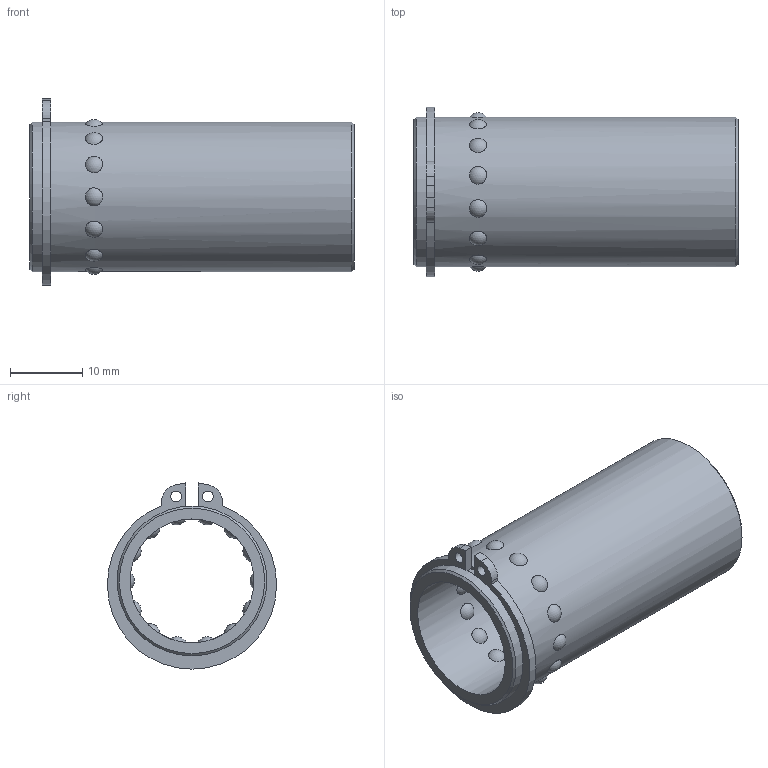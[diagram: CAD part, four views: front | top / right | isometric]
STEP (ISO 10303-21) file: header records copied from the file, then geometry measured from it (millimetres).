
FILE_DESCRIPTION(/* description */ ('Impex Ready, www.impex-ready.pl'),/* implementation_level */ '2;1');
FILE_NAME(/* name */ 'C:\Users\VIKKY\Nextcloud\SM\projekt 10 - części na stronę internetową\Pliki_3D_new\276 Koszyk GSA\276 GSA_STEP\GSA1645.ipt.step',/* time_stamp */ '2021-12-22T11:57:09+01:00',/* author */ ('SM'),/* organization */ (''),/* preprocessor_version */ 'ST-DEVELOPER v18.1',/* originating_system */ 'Autodesk Inventor 2021',/* authorisation */ '');
FILE_SCHEMA (('AUTOMOTIVE_DESIGN { 1 0 10303 214 3 1 1 }'));
Length unit declared in the file: millimetre
Products named in the file (1): GSA1645
Bounding box: 45 x 23.5 x 25.86 mm (x, y, z)
Volume: 4985.5 mm3; surface area: 6091.8 mm2
Topology: 2 solids, 2 shells, 52 faces, 86 edges, 66 vertices
Faces by surface type: sphere 28, plane 12, cylinder 10, cone 2
Full cylindrical faces by diameter (mm): 1.5 x2, 17.2 x1, 19.8 x1, 20.8 x2
Entity records: 2389 total; most frequent: CARTESIAN_POINT 1245, DIRECTION 182, ORIENTED_EDGE 172, EDGE_LOOP 86, EDGE_CURVE 86, AXIS2_PLACEMENT_3D 75, VERTEX_POINT 66, FACE_OUTER_BOUND 52
